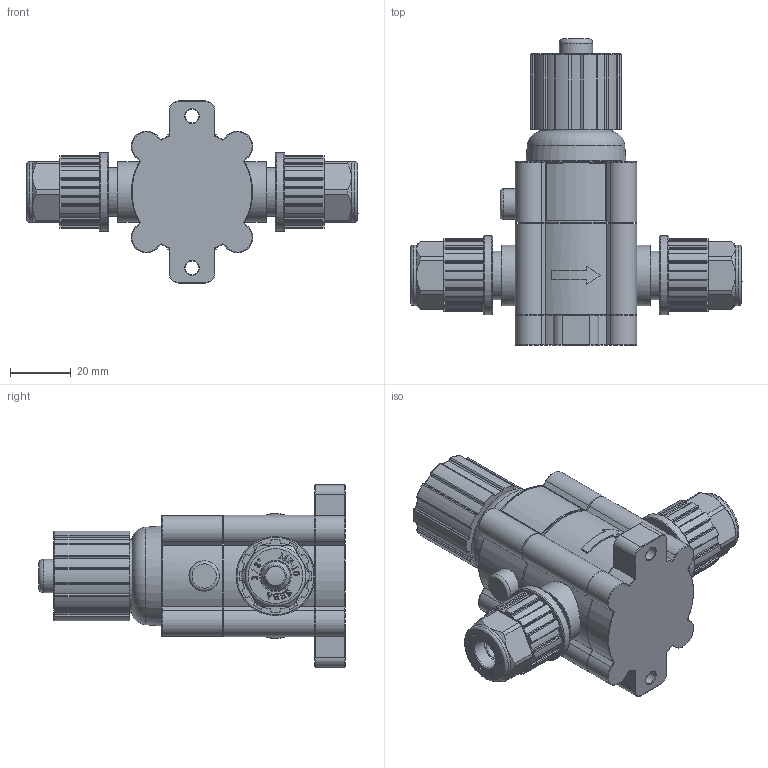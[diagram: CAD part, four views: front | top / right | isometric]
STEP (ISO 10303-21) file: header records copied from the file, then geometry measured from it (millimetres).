
FILE_DESCRIPTION(/* description */ (''),/* implementation_level */ '2;1');
FILE_NAME(/* name */ 'SM-PA-MF010-C_stp.stp',/* time_stamp */ '2020-01-20T11:50:39+09:00',/* author */ (''),/* organization */ (''),/* preprocessor_version */ 'ST-DEVELOPER v11',/* originating_system */ 'SIEMENS PLM Software NX 7.5',/* authorisation */ '');
FILE_SCHEMA (('AUTOMOTIVE_DESIGN { 1 0 10303 214 1 1 1 1 }'));
Length unit declared in the file: millimetre
Products named in the file (10): Base; 3-8 PFA_Nut; 3-8 Body; Cover; Handle; Case; Stepping; Shaft2; Base67778; SM-PA-MF010-C_stp
Assembly tree (10 placements, depth 3):
  SM-PA-MF010-C_stp
    Base67778
      Base
    Shaft2
    Stepping
    Case
    Handle
    Cover
    3-8 Body
    3-8 PFA_Nut  x2
Bounding box: 109.4 x 101 x 60 mm (x, y, z)
Volume: 161192.8 mm3; surface area: 48736.6 mm2
Topology: 9 solids, 9 shells, 1726 faces, 4648 edges, 3036 vertices
Faces by surface type: plane 858, cylinder 441, bspline 312, torus 94, cone 21
Full cylindrical faces by diameter (mm): 4.5 x14, 6.4 x2, 9 x1, 9.8 x2, 10 x1, 10.8 x2, 11 x1, 14 x2, 14.4 x2, 15 x1, 16 x4, 20 x4, 23.8 x1, 26 x2, 33 x1
Entity records: 46697 total; most frequent: CARTESIAN_POINT 14468, ORIENTED_EDGE 6854, DIRECTION 6252, EDGE_CURVE 3427, VERTEX_POINT 2263, LINE 2234, VECTOR 2234, AXIS2_PLACEMENT_3D 2009
